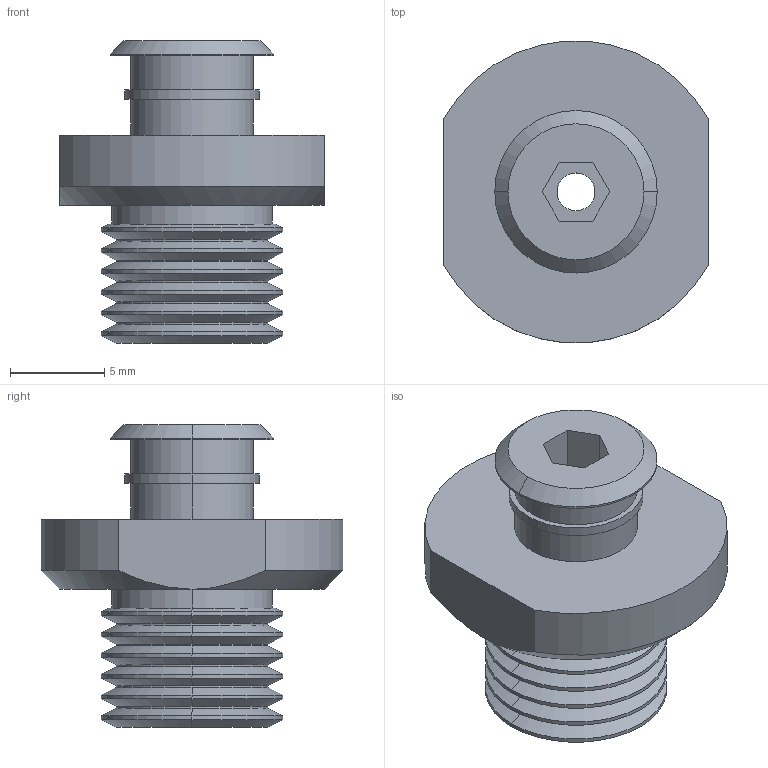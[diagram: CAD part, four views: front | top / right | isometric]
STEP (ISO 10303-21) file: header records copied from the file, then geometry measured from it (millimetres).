
FILE_DESCRIPTION (( 'STEP AP214' ), '1' );
FILE_NAME ('VM-17-G1-8.STEP', '2023-03-06T01:58:42', ( 'Windows User' ), ( 'P R C' ), 'SwSTEP 2.0', 'SolidWorks 2019', '' );
FILE_SCHEMA (( 'AUTOMOTIVE_DESIGN' ));
Length unit declared in the file: millimetre
Products named in the file (1): VM-17-G1-8
Bounding box: 14 x 15.95 x 16 mm (x, y, z)
Volume: 1152.5 mm3; surface area: 1226.3 mm2
Topology: 1 solids, 1 shells, 85 faces, 176 edges, 100 vertices
Faces by surface type: cylinder 38, cone 30, plane 17
Entity records: 2298 total; most frequent: DIRECTION 428, CARTESIAN_POINT 390, ORIENTED_EDGE 352, EDGE_CURVE 176, AXIS2_PLACEMENT_3D 170, VERTEX_POINT 100, EDGE_LOOP 94, LINE 88
